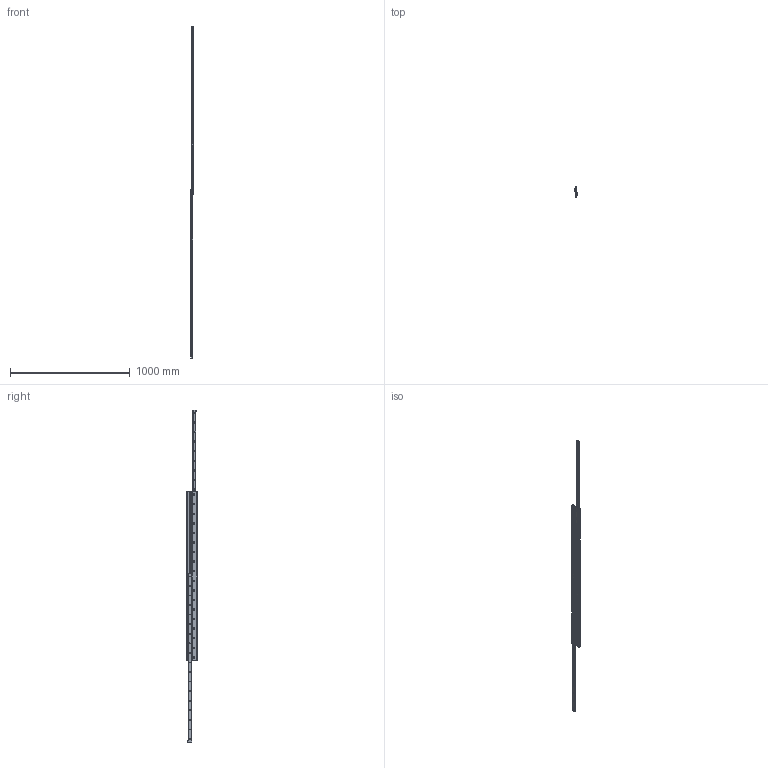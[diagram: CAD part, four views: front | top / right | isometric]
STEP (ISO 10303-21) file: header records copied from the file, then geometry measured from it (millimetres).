
FILE_DESCRIPTION (( 'STEP AP203' ), '1' );
FILE_NAME ('L1984.28D-1410.step', '2018-07-03T12:17:03', ( '' ), ( '' ), 'SwSTEP 2.0', 'SolidWorks 2017', '' );
FILE_SCHEMA (( 'CONFIG_CONTROL_DESIGN' ));
Length unit declared in the file: millimetre
Products named in the file (5): Part0_L1984.28D-1410; Part1_L1984.28D-1410; L1984.28D-1410; Part3_L1984.28D-1410; Part2_L1984.28D-1410
Assembly tree (7 placements, depth 2):
  L1984.28D-1410
    Part0_L1984.28D-1410
    Part2_L1984.28D-1410  x2
    Part1_L1984.28D-1410  x2
    Part3_L1984.28D-1410  x2
Bounding box: 17 x 84 x 2776 mm (x, y, z)
Volume: 1207800.7 mm3; surface area: 830058 mm2
Topology: 7 solids, 7 shells, 794 faces, 2002 edges, 1332 vertices
Faces by surface type: plane 520, cone 144, cylinder 130
Entity records: 18456 total; most frequent: CARTESIAN_POINT 3091, DIRECTION 3065, ORIENTED_EDGE 2982, EDGE_CURVE 1491, VECTOR 1133, LINE 1133, VERTEX_POINT 992, AXIS2_PLACEMENT_3D 966
